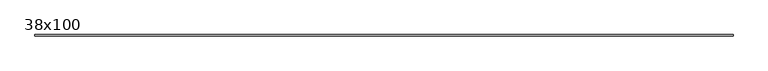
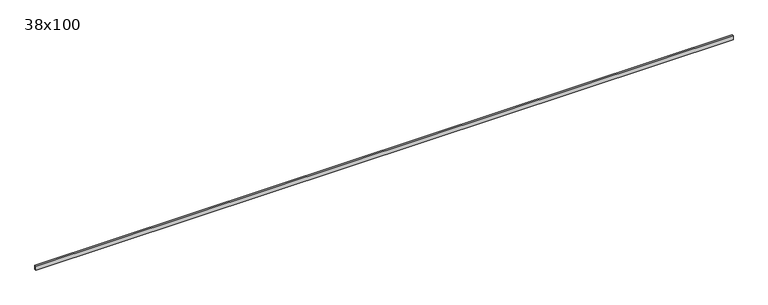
"""IFC4 building model written with IfcOpenShell, lengths in millimetres: beam geometry, Poutre - Bois de construction de dimensions courantes : 38x100."""

import ifcopenshell
import ifcopenshell.guid

model = None  # the IFC model being written
_history = None  # IfcOwnerHistory: only IFC2X3 demands one
_inside = {}  # id of a spatial element -> (the spatial element, [elements in it])
_under = {}  # id of a project, library or spatial element -> (it, [spatial elements below it])
_declared = {}  # id of a project -> (the project, [libraries it declares])
_typed = {}  # id of a type object -> (the type object, [elements of that type])
_made_of = {}  # id of a material, layer set ... -> (it, [elements and type objects made of it])


def new_model(schema):
    """Start an empty IFC model of exactly this schema.

    Asked for "IFC4X3", IfcOpenShell would pick the latest addendum, in which some entities
    have other attributes; the version numbers below select the first issue.
    IFC2X3 requires an IfcOwnerHistory on every rooted entity: one is made here for all.
    """
    global model, _history
    if schema == "IFC4X3":
        model = ifcopenshell.file(schema_version=(4, 3, 0, 0))
    else:
        model = ifcopenshell.file(schema=schema)
    _inside.clear()
    _under.clear()
    _declared.clear()
    _typed.clear()
    _made_of.clear()
    _history = None
    if model.schema == "IFC2X3":
        org = make("IfcOrganization", Name="unknown")
        user = make(
            "IfcPersonAndOrganization",
            ThePerson=make("IfcPerson", FamilyName="unknown"),
            TheOrganization=org,
        )
        app = make(
            "IfcApplication",
            ApplicationDeveloper=org,
            Version="unknown",
            ApplicationFullName="unknown",
            ApplicationIdentifier="unknown",
        )
        _history = make(
            "IfcOwnerHistory",
            OwningUser=user,
            OwningApplication=app,
            ChangeAction="ADDED",
            CreationDate=0,
        )
    return model


def make(cls, **values):
    """One entity of the class cls with the attributes given. An attribute that is None is left unset."""
    return model.create_entity(
        cls, **{name: value for name, value in values.items() if value is not None}
    )


def rooted(cls, **values):
    """An entity with a GlobalId (a new one), such as an element, a storey or a relation."""
    return make(cls, GlobalId=ifcopenshell.guid.new(), OwnerHistory=_history, **values)


def si_unit(unit_type, name, prefix=None):
    """IfcSIUnit, for example si_unit("LENGTHUNIT", "METRE", prefix="MILLI")."""
    return make("IfcSIUnit", UnitType=unit_type, Prefix=prefix, Name=name)


def assignment(units):
    """IfcUnitAssignment: the units of a project."""
    return None if units is None else make("IfcUnitAssignment", Units=units)


def point(xyz):
    """IfcCartesianPoint."""
    return None if xyz is None else make("IfcCartesianPoint", Coordinates=xyz)


def direction(xyz):
    """IfcDirection."""
    return None if xyz is None else make("IfcDirection", DirectionRatios=xyz)


def frame(location, z_axis=None, x_axis=None):
    """IfcAxis2Placement3D, a coordinate frame: its origin and axes. An axis left out is left unset."""
    return make(
        "IfcAxis2Placement3D",
        Location=point(location),
        Axis=direction(z_axis),
        RefDirection=direction(x_axis),
    )


def origin():
    """The frame at (0, 0, 0) with its axes left unset."""
    return frame((0.0, 0.0, 0.0))


def place(relative_to, where):
    """IfcLocalPlacement: puts the frame where relative to a parent placement (None: the world)."""
    return make(
        "IfcLocalPlacement", PlacementRelTo=relative_to, RelativePlacement=where
    )


def context(
    kind, dimensions, precision=None, world=None, true_north=None, identifier=None
):
    """IfcGeometricRepresentationContext, for example the 3D "Model" context."""
    return make(
        "IfcGeometricRepresentationContext",
        ContextIdentifier=identifier,
        ContextType=kind,
        CoordinateSpaceDimension=dimensions,
        Precision=precision,
        WorldCoordinateSystem=world,
        TrueNorth=true_north,
    )


def project(units=None, contexts=None):
    """IfcProject with its units and contexts."""
    return rooted(
        "IfcProject",
        Name="project",
        RepresentationContexts=contexts,
        UnitsInContext=assignment(units),
    )


def spatial(cls, under=None, at=None, **own):
    """A site, building, storey or space (cls), placed at a placement, below another one or the project."""
    s = rooted(cls, ObjectPlacement=at, **own)
    if under is not None:
        _under.setdefault(under.id(), (under, []))[1].append(s)
    return s


def polyline(points):
    """IfcPolyline through the points."""
    return make("IfcPolyline", Points=[point(p) for p in points])


def outline(outer, holes=None, kind="AREA"):
    """IfcArbitraryClosedProfileDef: a profile drawn as a closed curve; with holes, ...WithVoids."""
    if holes is None:
        return make("IfcArbitraryClosedProfileDef", ProfileType=kind, OuterCurve=outer)
    return make(
        "IfcArbitraryProfileDefWithVoids",
        ProfileType=kind,
        OuterCurve=outer,
        InnerCurves=holes,
    )


def extrude(swept, where, along, depth):
    """IfcExtrudedAreaSolid: the profile swept, set in the frame where, extruded along a direction by depth."""
    return make(
        "IfcExtrudedAreaSolid",
        SweptArea=swept,
        Position=where,
        ExtrudedDirection=direction(along),
        Depth=depth,
    )


def shape(context_of_items, identifier, shape_type, items):
    """IfcShapeRepresentation: the items that make up one representation, for example the "Body"."""
    return make(
        "IfcShapeRepresentation",
        ContextOfItems=context_of_items,
        RepresentationIdentifier=identifier,
        RepresentationType=shape_type,
        Items=items,
    )


def source(mapping_origin, context_of_items, identifier, shape_type, items):
    """IfcRepresentationMap: a shape defined once, which mapped items show again and again."""
    return make(
        "IfcRepresentationMap",
        MappingOrigin=mapping_origin,
        MappedRepresentation=shape(context_of_items, identifier, shape_type, items),
    )


def transform(
    local_origin,
    x_axis=None,
    y_axis=None,
    z_axis=None,
    scale=None,
    scale2=None,
    scale3=None,
    uniform=True,
):
    """IfcCartesianTransformationOperator3D, or its non-uniform kind. x_axis, y_axis, z_axis: its Axis1, 2, 3."""
    if uniform:
        return make(
            "IfcCartesianTransformationOperator3D",
            Axis1=direction(x_axis),
            Axis2=direction(y_axis),
            LocalOrigin=point(local_origin),
            Scale=scale,
            Axis3=direction(z_axis),
        )
    return make(
        "IfcCartesianTransformationOperator3DnonUniform",
        Axis1=direction(x_axis),
        Axis2=direction(y_axis),
        LocalOrigin=point(local_origin),
        Scale=scale,
        Axis3=direction(z_axis),
        Scale2=scale2,
        Scale3=scale3,
    )


def mapped(mapping_source, mapping_target):
    """IfcMappedItem: shows the shape of a source again, moved by a transform."""
    return make(
        "IfcMappedItem", MappingSource=mapping_source, MappingTarget=mapping_target
    )


def made_of(thing, what):
    """Note that an element or type object is made of a material, layer set ...; save() writes the relation."""
    if what is not None:
        _made_of.setdefault(what.id(), (what, []))[1].append(thing)
    return thing


def element(
    cls,
    number,
    at=None,
    inside=None,
    cuts=None,
    type_object=None,
    material=None,
    context=None,
    identifier="Body",
    shape_type=None,
    held_by="IfcProductDefinitionShape",
    body=None,
    shapes=None,
    **own,
):
    """One element of the class cls, such as IfcWall. Its Tag is "e" and its number.

    at: its placement. inside: the storey or other place that contains it. cuts: it is an
    opening in that element (IfcRelVoidsElement). A single representation is given by context,
    identifier, shape_type and body (its items); several are given by shapes. held_by: the class
    of the entity that holds the representations. save() writes the other relations.
    """
    e = rooted(cls, Tag="e%d" % number, ObjectPlacement=at, **own)
    if body is not None:
        shapes = [shape(context, identifier, shape_type, body)]
    if shapes is not None:
        e.Representation = make(held_by, Representations=shapes)
    if inside is not None:
        _inside.setdefault(inside.id(), (inside, []))[1].append(e)
    if cuts is not None:
        rooted(
            "IfcRelVoidsElement", RelatingBuildingElement=cuts, RelatedOpeningElement=e
        )
    if type_object is not None:
        _typed.setdefault(type_object.id(), (type_object, []))[1].append(e)
    return made_of(e, material)


def aggregate(whole, parts):
    """IfcRelAggregates: a whole, such as a stair, and the parts it consists of."""
    return rooted("IfcRelAggregates", RelatingObject=whole, RelatedObjects=parts)


def save(model, path):
    """Write the relations noted so far, then the file.

    IfcRelAggregates (storeys below a building ...), IfcRelContainedInSpatialStructure (elements
    in a storey), IfcRelDefinesByType, IfcRelAssociatesMaterial and IfcRelDeclares: one each for
    every whole, place, type object, material and project.
    """
    for whole, parts in _under.values():
        aggregate(whole, parts)
    for where, things in _inside.values():
        rooted(
            "IfcRelContainedInSpatialStructure",
            RelatedElements=things,
            RelatingStructure=where,
        )
    for kind, things in _typed.values():
        rooted("IfcRelDefinesByType", RelatedObjects=things, RelatingType=kind)
    for what, things in _made_of.values():
        rooted("IfcRelAssociatesMaterial", RelatedObjects=things, RelatingMaterial=what)
    for by, libraries in _declared.values():
        rooted("IfcRelDeclares", RelatingContext=by, RelatedDefinitions=libraries)
    model.write(path)


def beam_38x100_e0814bc5(model_context):
    return source(origin(), model_context, "Body", "SweptSolid", [
        extrude(outline(polyline([(8659.0, 19.05), (8659.0, -19.05), (-8659.0, -19.05), (-8659.0, 19.05), (8659.0, 19.05)])), frame((0.0, 0.0, -50.0), z_axis=(0.0, 0.0, 1.0), x_axis=(1.0, 0.0, 0.0)), (0.0, 0.0, 1.0), 100.0),
    ])


if __name__ == "__main__":
    model = new_model("IFC4")
    model_context = context("Model", 3, world=origin())
    ifc_project = project(units=[si_unit("LENGTHUNIT", "METRE", prefix="MILLI")], contexts=[model_context])
    site = spatial("IfcSite", under=ifc_project)
    building = spatial("IfcBuilding", under=site)
    placement = place(None, origin())
    beam_38x100_shape = beam_38x100_e0814bc5(model_context)
    element("IfcBeam", 1, ObjectType="Poutre - Bois de construction de dimensions courantes : 38x100", at=placement, inside=building, context=model_context, shape_type="MappedRepresentation", body=[
        mapped(beam_38x100_shape, transform((0.0, 0.0, 0.0), x_axis=(1.0, 0.0, 0.0), y_axis=(0.0, 1.0, 0.0), z_axis=(0.0, 0.0, 1.0))),
    ])
    save(model, "model.ifc")
